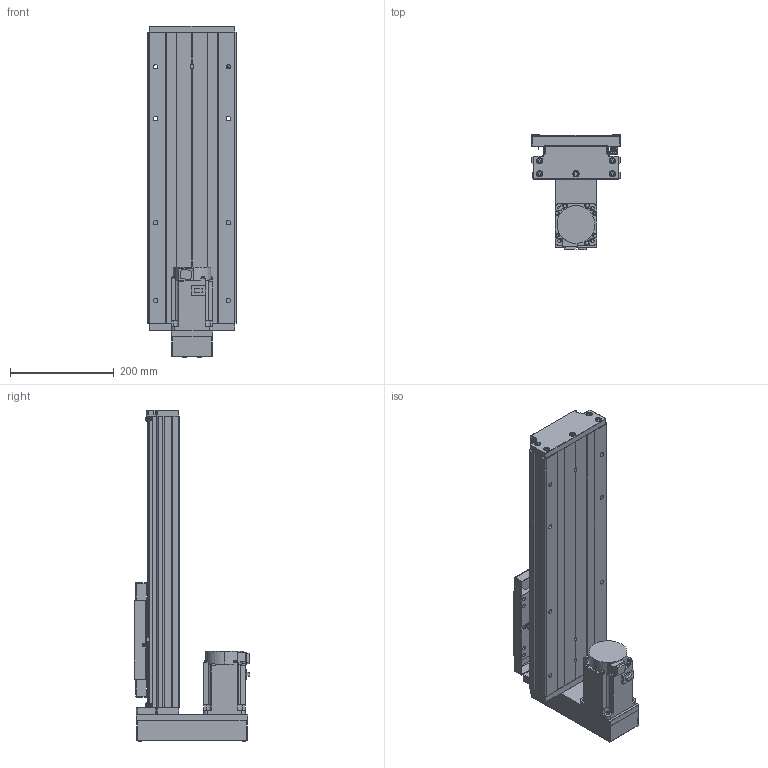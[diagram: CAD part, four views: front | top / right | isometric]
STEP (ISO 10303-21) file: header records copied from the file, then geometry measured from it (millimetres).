
FILE_DESCRIPTION (( 'STEP AP203' ), '1' );
FILE_NAME ('GTH17-300-BM-M75-C4.step', '2023-06-30T12:39:11', ( '微软用户' ), ( '微软中国' ), 'SwSTEP 2.0', 'SolidWorks 2020', '' );
FILE_SCHEMA (( 'CONFIG_CONTROL_DESIGN' ));
Length unit declared in the file: millimetre
Products named in the file (19): CTHA60-016; HG-KN73J-S100; GTH17-002_GTH17-002; GBT 70.1-M3℅5; GBT 70.2-M4¡Á45_M4¡Á35; GTH17-001_300; GTH17-004; GBT77-2000 M3×3; GTH17-015-2_CTHA86-015-2; GTH17-005; GBT 70.1-M6¡Á20_M6¡Á20; GTH17-033; GB1155-6X6; GTH17-031; GTH17-300-BM-M75-C4; CTHA60-017; GBT 70.2-M3¡Á5_M3¡Á6; EE_SX911P_R; す晦芛蹟隊 M3℅5
Assembly tree (58 placements, depth 2):
  GTH17-300-BM-M75-C4
    GTH17-001_300
    GTH17-002_GTH17-002
    GTH17-004
    GTH17-005
    GB1155-6X6  x2
    CTHA60-017  x3
    EE_SX911P_R  x3
    CTHA60-016  x2
    GBT 70.1-M3℅5  x6
    GBT77-2000 M3×3  x6
    GBT 70.1-M6¡Á20_M6¡Á20  x10
    GTH17-031
    GBT 70.2-M3¡Á5_M3¡Á6  x8
    す晦芛蹟隊 M3℅5  x6
    HG-KN73J-S100
    GBT 70.2-M4¡Á45_M4¡Á35  x4
    GTH17-015-2_CTHA86-015-2
    GTH17-033
Bounding box: 171 x 222.3 x 638.2 mm (x, y, z)
Volume: 5751495.9 mm3; surface area: 894174.6 mm2
Topology: 61 solids, 61 shells, 2429 faces, 5797 edges, 3587 vertices
Faces by surface type: plane 1306, cylinder 650, cone 297, torus 124, sphere 32, bspline 20
Entity records: 44122 total; most frequent: CARTESIAN_POINT 10266, DIRECTION 6361, ORIENTED_EDGE 6306, EDGE_CURVE 3153, AXIS2_PLACEMENT_3D 2160, LINE 2041, VECTOR 2041, VERTEX_POINT 1999
